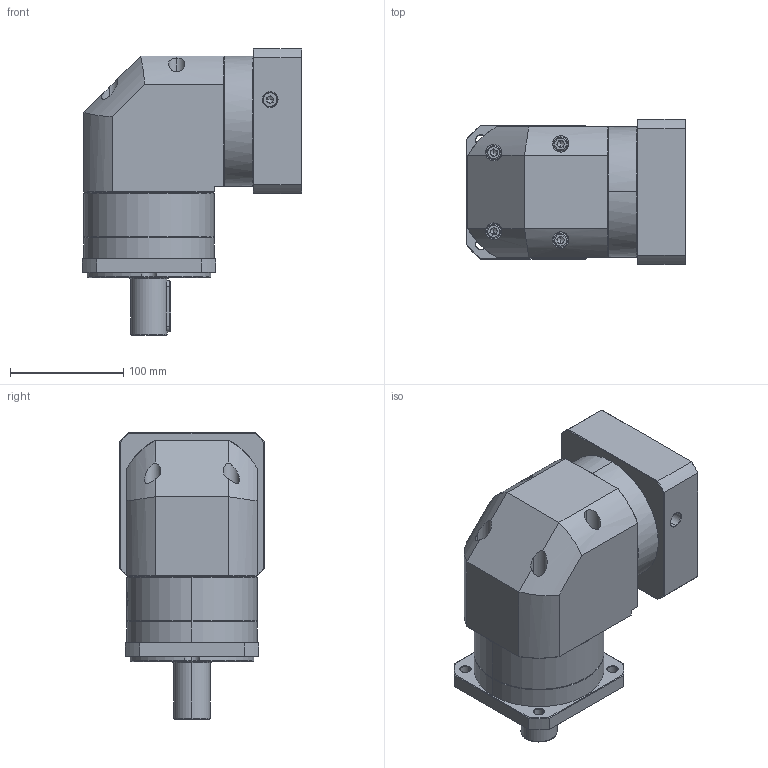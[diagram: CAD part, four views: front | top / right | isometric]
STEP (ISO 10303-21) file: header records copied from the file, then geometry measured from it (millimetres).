
FILE_DESCRIPTION (( 'STEP AP214' ), '1' );
FILE_NAME ('ZFR120A-D32-L1-P2-24-110-145-M8.step', '2023-08-27T08:07:45', ( '' ), ( '' ), 'SwSTEP 2.0', 'SolidWorks 2016', '' );
FILE_SCHEMA (( 'AUTOMOTIVE_DESIGN' ));
Length unit declared in the file: millimetre
Products named in the file (1): ZFR120A-D32-L1-P2-24-110-145-M8
Bounding box: 193.9 x 128 x 253 mm (x, y, z)
Volume: 2991194.5 mm3; surface area: 252627.4 mm2
Topology: 6 solids, 6 shells, 2265 faces, 5981 edges, 3821 vertices
Faces by surface type: plane 1061, cylinder 434, bspline 424, cone 338, torus 8
Entity records: 124428 total; most frequent: CARTESIAN_POINT 48994, ORIENTED_EDGE 11902, DIRECTION 8632, EDGE_CURVE 5951, VERTEX_POINT 3821, VECTOR 3160, LINE 3160, AXIS2_PLACEMENT_3D 2736
